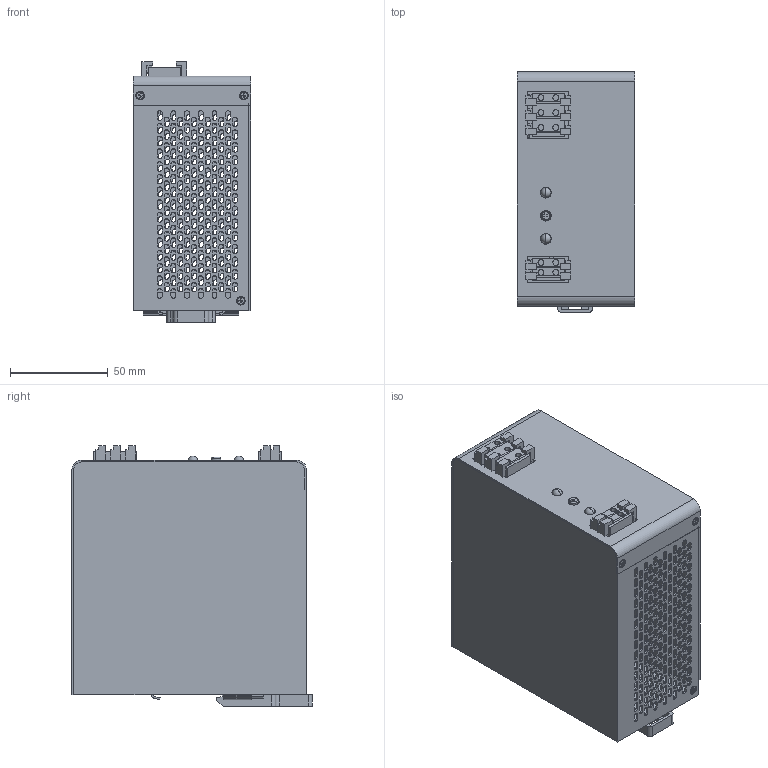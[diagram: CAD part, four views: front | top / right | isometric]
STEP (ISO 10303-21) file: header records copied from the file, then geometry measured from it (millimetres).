
FILE_DESCRIPTION(('STEP AP214'),'1');
FILE_NAME('65680.stp','2017-04-25T12:10:30',('TraceParts'),('TraceParts S.A.'),'Spatial InterOp 3D',' ',' ');
FILE_SCHEMA(('automotive_design'));
Length unit declared in the file: millimetre
Products named in the file (26): 65680_1; 65680_2; 65680_3; 65680_4; 65680_5; 65680_6; 65680_7; 65680_8; 65680_9; 65680_10; 65680_11; 65680_12; 65680_13; 65680_14; 65680_15; 65680_16; 65680_17; 65680_18; 65680_19; 65680_20; 65680_21; 65680_22; 65680_23; 65680_24; 65680_25; 65680_26
Bounding box: 60 x 122.91 x 133.3 mm (x, y, z)
Volume: 68779 mm3; surface area: 129793.9 mm2
Topology: 26 solids, 26 shells, 2784 faces, 7960 edges, 5278 vertices
Faces by surface type: plane 1455, cylinder 1285, cone 38, sphere 4, torus 2
Entity records: 115814 total; most frequent: DIRECTION 16158, CARTESIAN_POINT 16094, ORIENTED_EDGE 15896, EDGE_CURVE 7948, AXIS2_PLACEMENT_3D 5414, LINE 5330, VECTOR 5330, VERTEX_POINT 5278
